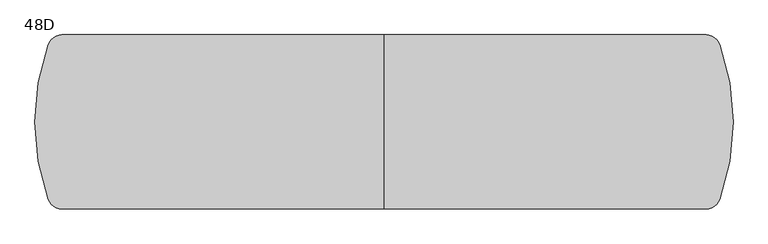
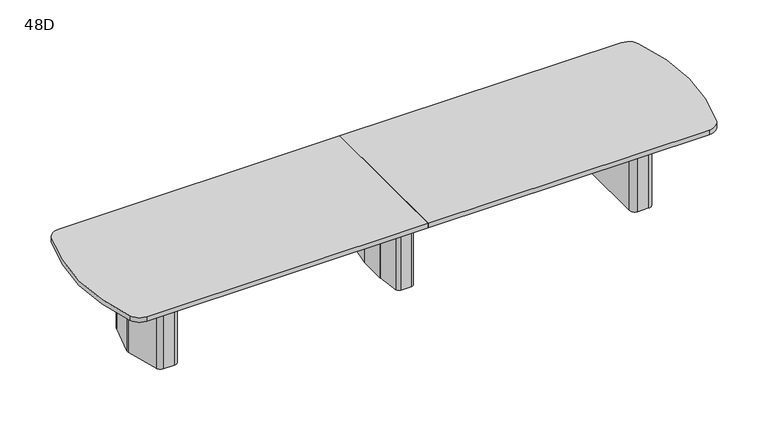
"""IFC4 building model written with IfcOpenShell, lengths in millimetres: furniture geometry, Coalesse_AM_Table_Conference_ETable2_SoftRadiused_16ft_ThreeBase : 48D."""

from ifc_helpers import new_model, si_unit, point, frame, frame_2d, origin, place, context, project, spatial, polyline, circle_curve, trimmed, segment, composite_curve, outline, extrude, source, transform, mapped, element, save
from ifc_brep_helpers import plane_surface, cylinder_surface, revolved_surface, advanced_brep


def furniture_48d_0d8360ce(model_context):
    return source(origin(), model_context, "Body", "SolidModel", [
        advanced_brep(
        [(35.71875, 206.375, 3.175), (10.31875, 231.775, 3.175), (-10.31875, 231.775, 3.175), (-35.71875, 206.375, 3.175), (-35.71875, -206.375, 3.175), (-10.31875, -231.775, 3.175), (10.31875, -231.775, 3.175), (35.71875, -206.375, 3.175), (-61.11875, 206.375, 0.0), (-10.31875, 257.175, 0.0), (10.31875, 257.175, 0.0), (61.11875, 206.375, 0.0), (61.11875, -206.375, 0.0), (10.31875, -257.175, 0.0), (-10.31875, -257.175, 0.0), (-61.11875, -206.375, 0.0), (-61.11875, -206.375, 3.175), (-61.11875, 206.375, 3.175), (-10.31875, -257.175, 3.175), (10.31875, -257.175, 3.175), (61.11875, -206.375, 3.175), (61.11875, 206.375, 3.175), (10.31875, 257.175, 3.175), (-10.31875, 257.175, 3.175), (-92.6215974, 106.2976848, 698.5), (-92.86875, 102.7629613, 698.5), (-92.86875, -102.7629613, 698.5), (-92.6215974, -106.2976848, 698.5), (-67.7988375, -282.9347235, 698.5), (-42.6459902, -304.8, 698.5), (42.6459902, -304.8, 698.5), (67.7988375, -282.9347235, 698.5), (92.6215974, -106.2976848, 698.5), (92.86875, -102.7629613, 698.5), (92.86875, 102.7629613, 698.5), (92.6215974, 106.2976848, 698.5), (67.7988375, 282.9347235, 698.5), (42.6459902, 304.8, 698.5), (-42.6459902, 304.8, 698.5), (-67.7988375, 282.9347235, 698.5), (10.31875, 231.775, 698.5), (35.71875, 206.375, 698.5), (35.71875, -206.375, 698.5), (10.31875, -231.775, 698.5), (-10.31875, -231.775, 698.5), (-35.71875, -206.375, 698.5), (-35.71875, 206.375, 698.5), (-10.31875, 231.775, 698.5), (-92.6215974, 106.2976848, 3.175), (-67.7988375, 282.9347235, 3.175), (-42.6459902, 304.8, 3.175), (42.6459902, 304.8, 3.175), (67.7988375, 282.9347235, 3.175), (92.6215974, 106.2976848, 3.175), (92.86875, 102.7629613, 3.175), (92.86875, -102.7629613, 3.175), (92.6215974, -106.2976848, 3.175), (67.7988375, -282.9347235, 3.175), (42.6459902, -304.8, 3.175), (-42.6459902, -304.8, 3.175), (-67.7988375, -282.9347235, 3.175), (-92.6215974, -106.2976848, 3.175), (-92.86875, -102.7629613, 3.175), (-92.86875, 102.7629613, 3.175)],
        [
            (0, 1, circle_curve(frame((10.31875, 206.375, 3.175), z_axis=(0.0, 0.0, 1.0), x_axis=(1.0, 0.0, 0.0)), 25.4)),
            (1, 2),
            (2, 3, circle_curve(frame((-10.31875, 206.375, 3.175), z_axis=(0.0, 0.0, 1.0), x_axis=(1.0, 0.0, 0.0)), 25.4)),
            (3, 4),
            (4, 5, circle_curve(frame((-10.31875, -206.375, 3.175), z_axis=(0.0, 0.0, 1.0), x_axis=(1.0, 0.0, 0.0)), 25.4)),
            (5, 6),
            (6, 7, circle_curve(frame((10.31875, -206.375, 3.175), z_axis=(0.0, 0.0, 1.0), x_axis=(1.0, 0.0, 0.0)), 25.4)),
            (7, 0),
            (8, 9, circle_curve(frame((-10.31875, 206.375, 0.0), z_axis=(0.0, 0.0, -1.0), x_axis=(1.0, 0.0, 0.0)), 50.8)),
            (9, 10),
            (10, 11, circle_curve(frame((10.31875, 206.375, 0.0), z_axis=(0.0, 0.0, -1.0), x_axis=(1.0, 0.0, 0.0)), 50.8)),
            (11, 12),
            (12, 13, circle_curve(frame((10.31875, -206.375, 0.0), z_axis=(0.0, 0.0, -1.0), x_axis=(1.0, 0.0, 0.0)), 50.8)),
            (13, 14),
            (14, 15, circle_curve(frame((-10.31875, -206.375, 0.0), z_axis=(0.0, 0.0, -1.0), x_axis=(1.0, 0.0, 0.0)), 50.8)),
            (15, 8),
            (15, 16),
            (16, 17),
            (17, 8),
            (14, 18),
            (18, 16, circle_curve(frame((-10.31875, -206.375, 3.175), z_axis=(0.0, 0.0, -1.0), x_axis=(1.0, 0.0, 0.0)), 50.8)),
            (13, 19),
            (19, 18),
            (12, 20),
            (20, 19, circle_curve(frame((10.31875, -206.375, 3.175), z_axis=(0.0, 0.0, -1.0), x_axis=(1.0, 0.0, 0.0)), 50.8)),
            (11, 21),
            (21, 20),
            (10, 22),
            (22, 21, circle_curve(frame((10.31875, 206.375, 3.175), z_axis=(0.0, 0.0, -1.0), x_axis=(1.0, 0.0, 0.0)), 50.8)),
            (9, 23),
            (23, 22),
            (17, 23, circle_curve(frame((-10.31875, 206.375, 3.175), z_axis=(0.0, 0.0, -1.0), x_axis=(1.0, 0.0, 0.0)), 50.8)),
            (24, 25, circle_curve(frame((-67.46875, 102.7629613, 698.5), z_axis=(0.0, 0.0, 1.0), x_axis=(1.0, 0.0, 0.0)), 25.4)),
            (25, 26),
            (26, 27, circle_curve(frame((-67.46875, -102.7629613, 698.5), z_axis=(0.0, 0.0, 1.0), x_axis=(1.0, 0.0, 0.0)), 25.4)),
            (27, 28),
            (28, 29, circle_curve(frame((-42.6459902, -279.4, 698.5), z_axis=(0.0, 0.0, 1.0), x_axis=(1.0, 0.0, 0.0)), 25.4)),
            (29, 30),
            (30, 31, circle_curve(frame((42.6459902, -279.4, 698.5), z_axis=(0.0, 0.0, 1.0), x_axis=(1.0, 0.0, 0.0)), 25.4)),
            (31, 32),
            (32, 33, circle_curve(frame((67.46875, -102.7629613, 698.5), z_axis=(0.0, 0.0, 1.0), x_axis=(1.0, 0.0, 0.0)), 25.4)),
            (33, 34),
            (34, 35, circle_curve(frame((67.46875, 102.7629613, 698.5), z_axis=(0.0, 0.0, 1.0), x_axis=(1.0, 0.0, 0.0)), 25.4)),
            (35, 36),
            (36, 37, circle_curve(frame((42.6459902, 279.4, 698.5), z_axis=(0.0, 0.0, 1.0), x_axis=(1.0, 0.0, 0.0)), 25.4)),
            (37, 38),
            (38, 39, circle_curve(frame((-42.6459902, 279.4, 698.5), z_axis=(0.0, 0.0, 1.0), x_axis=(1.0, 0.0, 0.0)), 25.4)),
            (39, 24),
            (40, 41, circle_curve(frame((10.31875, 206.375, 698.5), z_axis=(0.0, 0.0, -1.0), x_axis=(1.0, 0.0, 0.0)), 25.4)),
            (41, 42),
            (42, 43, circle_curve(frame((10.31875, -206.375, 698.5), z_axis=(0.0, 0.0, -1.0), x_axis=(1.0, 0.0, 0.0)), 25.4)),
            (43, 44),
            (44, 45, circle_curve(frame((-10.31875, -206.375, 698.5), z_axis=(0.0, 0.0, -1.0), x_axis=(1.0, 0.0, 0.0)), 25.4)),
            (45, 46),
            (46, 47, circle_curve(frame((-10.31875, 206.375, 698.5), z_axis=(0.0, 0.0, -1.0), x_axis=(1.0, 0.0, 0.0)), 25.4)),
            (47, 40),
            (48, 49),
            (49, 50, circle_curve(frame((-42.6459902, 279.4, 3.175), z_axis=(0.0, 0.0, -1.0), x_axis=(1.0, 0.0, 0.0)), 25.4)),
            (50, 51),
            (51, 52, circle_curve(frame((42.6459902, 279.4, 3.175), z_axis=(0.0, 0.0, -1.0), x_axis=(1.0, 0.0, 0.0)), 25.4)),
            (52, 53),
            (53, 54, circle_curve(frame((67.46875, 102.7629613, 3.175), z_axis=(0.0, 0.0, -1.0), x_axis=(1.0, 0.0, 0.0)), 25.4)),
            (54, 55),
            (55, 56, circle_curve(frame((67.46875, -102.7629613, 3.175), z_axis=(0.0, 0.0, -1.0), x_axis=(1.0, 0.0, 0.0)), 25.4)),
            (56, 57),
            (57, 58, circle_curve(frame((42.6459902, -279.4, 3.175), z_axis=(0.0, 0.0, -1.0), x_axis=(1.0, 0.0, 0.0)), 25.4)),
            (58, 59),
            (59, 60, circle_curve(frame((-42.6459902, -279.4, 3.175), z_axis=(0.0, 0.0, -1.0), x_axis=(1.0, 0.0, 0.0)), 25.4)),
            (60, 61),
            (61, 62, circle_curve(frame((-67.46875, -102.7629613, 3.175), z_axis=(0.0, 0.0, -1.0), x_axis=(1.0, 0.0, 0.0)), 25.4)),
            (62, 63),
            (63, 48, circle_curve(frame((-67.46875, 102.7629613, 3.175), z_axis=(0.0, 0.0, -1.0), x_axis=(1.0, 0.0, 0.0)), 25.4)),
            (24, 48),
            (63, 25),
            (62, 26),
            (61, 27),
            (60, 28),
            (59, 29),
            (58, 30),
            (57, 31),
            (56, 32),
            (55, 33),
            (54, 34),
            (53, 35),
            (52, 36),
            (51, 37),
            (50, 38),
            (49, 39),
            (40, 1),
            (0, 41),
            (7, 42),
            (6, 43),
            (5, 44),
            (4, 45),
            (3, 46),
            (2, 47),
        ],
        [
            plane_surface(frame((-61.11875, -206.375, 3.175), z_axis=(0.0, 0.0, 1.0), x_axis=(0.0, -1.0, 0.0))),
            plane_surface(frame((-61.11875, -206.375, 0.0), z_axis=(0.0, 0.0, -1.0), x_axis=(0.0, 1.0, 0.0))),
            plane_surface(frame((-61.11875, 206.375, 3.175), z_axis=(-1.0, 0.0, 0.0), x_axis=(0.0, 0.0, -1.0))),
            cylinder_surface(frame((-10.31875, -206.375, 0.0), z_axis=(0.0, 0.0, 1.0), x_axis=(1.0, 0.0, 0.0)), 50.8),
            plane_surface(frame((-10.31875, -257.175, 3.175), z_axis=(0.0, -1.0, 0.0), x_axis=(0.0, 0.0, -1.0))),
            cylinder_surface(frame((10.31875, -206.375, 0.0), z_axis=(0.0, 0.0, 1.0), x_axis=(1.0, 0.0, 0.0)), 50.8),
            plane_surface(frame((61.11875, -206.375, 3.175), z_axis=(1.0, 0.0, 0.0), x_axis=(0.0, 0.0, -1.0))),
            cylinder_surface(frame((10.31875, 206.375, 0.0), z_axis=(0.0, 0.0, 1.0), x_axis=(1.0, 0.0, 0.0)), 50.8),
            plane_surface(frame((10.31875, 257.175, 3.175), z_axis=(0.0, 1.0, 0.0), x_axis=(0.0, 0.0, -1.0))),
            cylinder_surface(frame((-10.31875, 206.375, 0.0), z_axis=(0.0, 0.0, 1.0), x_axis=(1.0, 0.0, 0.0)), 50.8),
            plane_surface(frame((-42.06875, 102.7629613, 698.5), z_axis=(0.0, 0.0, 1.0), x_axis=(0.0, 1.0, 0.0))),
            plane_surface(frame((-42.06875, 102.7629613, 3.175), z_axis=(0.0, 0.0, -1.0), x_axis=(0.0, -1.0, 0.0))),
            cylinder_surface(frame((-67.46875, 102.7629613, 3.175), z_axis=(0.0, 0.0, 1.0), x_axis=(1.0, 0.0, 0.0)), 25.4),
            plane_surface(frame((-92.86875, 102.7629613, 698.5), z_axis=(-1.0, 0.0, 0.0), x_axis=(0.0, 0.0, -1.0))),
            cylinder_surface(frame((-67.46875, -102.7629613, 3.175), z_axis=(0.0, 0.0, 1.0), x_axis=(1.0, 0.0, 0.0)), 25.4),
            plane_surface(frame((-92.6215974, -106.2976848, 698.5), z_axis=(-0.9902695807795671, -0.13916234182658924, 0.0), x_axis=(0.0, 0.0, -1.0))),
            cylinder_surface(frame((-42.6459902, -279.4, 3.175), z_axis=(0.0, 0.0, 1.0), x_axis=(1.0, 0.0, 0.0)), 25.4),
            plane_surface(frame((-42.6459902, -304.8, 698.5), z_axis=(0.0, -1.0, 0.0), x_axis=(0.0, 0.0, -1.0))),
            cylinder_surface(frame((42.6459902, -279.4, 3.175), z_axis=(0.0, 0.0, 1.0), x_axis=(1.0, 0.0, 0.0)), 25.4),
            plane_surface(frame((67.7988375, -282.9347235, 698.5), z_axis=(0.9902695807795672, -0.13916234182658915, 0.0), x_axis=(0.0, 0.0, -1.0))),
            cylinder_surface(frame((67.46875, -102.7629613, 3.175), z_axis=(0.0, 0.0, 1.0), x_axis=(1.0, 0.0, 0.0)), 25.4),
            plane_surface(frame((92.86875, -102.7629613, 698.5), z_axis=(1.0, 0.0, 0.0), x_axis=(0.0, 0.0, -1.0))),
            cylinder_surface(frame((67.46875, 102.7629613, 3.175), z_axis=(0.0, 0.0, 1.0), x_axis=(1.0, 0.0, 0.0)), 25.4),
            plane_surface(frame((92.6215974, 106.2976848, 698.5), z_axis=(0.9902695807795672, 0.1391623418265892, 0.0), x_axis=(0.0, 0.0, -1.0))),
            cylinder_surface(frame((42.6459902, 279.4, 3.175), z_axis=(0.0, 0.0, 1.0), x_axis=(1.0, 0.0, 0.0)), 25.4),
            plane_surface(frame((42.6459902, 304.8, 698.5), z_axis=(0.0, 1.0, 0.0), x_axis=(0.0, 0.0, -1.0))),
            cylinder_surface(frame((-42.6459902, 279.4, 3.175), z_axis=(0.0, 0.0, 1.0), x_axis=(1.0, 0.0, 0.0)), 25.4),
            plane_surface(frame((-67.7988375, 282.9347235, 698.5), z_axis=(-0.9902695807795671, 0.13916234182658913, 0.0), x_axis=(0.0, 0.0, -1.0))),
            revolved_surface(polyline([(35.71875, 206.375, 3.175), (35.71875, 206.375, 698.5)]), (10.31875, 206.375, 0.0), (0.0, 0.0, -1.0)),
            plane_surface(frame((35.71875, 206.375, 698.5), z_axis=(-1.0, 0.0, 0.0), x_axis=(0.0, 0.0, -1.0))),
            revolved_surface(polyline([(35.71875, -206.375, 3.175), (35.71875, -206.375, 698.5)]), (10.31875, -206.375, 0.0), (0.0, 0.0, -1.0)),
            plane_surface(frame((10.31875, -231.775, 698.5), z_axis=(0.0, 1.0, 0.0), x_axis=(0.0, 0.0, -1.0))),
            revolved_surface(polyline([(15.081249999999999, -206.375, 3.175), (15.081249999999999, -206.375, 698.5)]), (-10.31875, -206.375, 0.0), (0.0, 0.0, -1.0)),
            plane_surface(frame((-35.71875, -206.375, 698.5), z_axis=(1.0, 0.0, 0.0), x_axis=(0.0, 0.0, -1.0))),
            revolved_surface(polyline([(15.081249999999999, 206.375, 3.175), (15.081249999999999, 206.375, 698.5)]), (-10.31875, 206.375, 0.0), (0.0, 0.0, -1.0)),
            plane_surface(frame((-10.31875, 231.775, 698.5), z_axis=(0.0, -1.0, 0.0), x_axis=(0.0, 0.0, -1.0))),
        ],
        [
            (0, [[1, 2, 3, 4, 5, 6, 7, 8]]),
            (1, [[9, 10, 11, 12, 13, 14, 15, 16]]),
            (2, [[-16, 17, 18, 19]]),
            (3, [[-15, 20, 21, -17]]),
            (4, [[-14, 22, 23, -20]]),
            (5, [[-13, 24, 25, -22]]),
            (6, [[-12, 26, 27, -24]]),
            (7, [[-11, 28, 29, -26]]),
            (8, [[-10, 30, 31, -28]]),
            (9, [[-9, -19, 32, -30]]),
            (10, [[33, 34, 35, 36, 37, 38, 39, 40, 41, 42, 43, 44, 45, 46, 47, 48], [49, 50, 51, 52, 53, 54, 55, 56]]),
            (11, [[57, 58, 59, 60, 61, 62, 63, 64, 65, 66, 67, 68, 69, 70, 71, 72], [-18, -21, -23, -25, -27, -29, -31, -32]]),
            (12, [[-33, 73, -72, 74]]),
            (13, [[-34, -74, -71, 75]]),
            (14, [[-35, -75, -70, 76]]),
            (15, [[-36, -76, -69, 77]]),
            (16, [[-37, -77, -68, 78]]),
            (17, [[-38, -78, -67, 79]]),
            (18, [[-39, -79, -66, 80]]),
            (19, [[-40, -80, -65, 81]]),
            (20, [[-41, -81, -64, 82]]),
            (21, [[-42, -82, -63, 83]]),
            (22, [[-43, -83, -62, 84]]),
            (23, [[-44, -84, -61, 85]]),
            (24, [[-45, -85, -60, 86]]),
            (25, [[-46, -86, -59, 87]]),
            (26, [[-47, -87, -58, 88]]),
            (27, [[-48, -88, -57, -73]]),
            (28, [[-49, 89, -1, 90]]),
            (29, [[-50, -90, -8, 91]]),
            (30, [[-51, -91, -7, 92]]),
            (31, [[-52, -92, -6, 93]]),
            (32, [[-53, -93, -5, 94]]),
            (33, [[-54, -94, -4, 95]]),
            (34, [[-55, -95, -3, 96]]),
            (35, [[-56, -96, -2, -89]]),
        ],
    ),
        advanced_brep(
        [(1979.824548, 274.2093613, 698.5), (1939.9579246, 304.8, 698.5), (1851.025, 304.8, 698.5), (1809.75, 263.525, 698.5), (1809.75, -263.525, 698.5), (1851.025, -304.8, 698.5), (1939.9579246, -304.8, 698.5), (1979.824548, -274.2093613, 698.5), (2050.4503901, -10.6333708, 698.5), (2050.4503901, 10.6333708, 698.5), (1847.85, -206.375, 698.5), (1847.85, 206.375, 698.5), (1873.25, 231.775, 698.5), (1932.2608422, 231.775, 698.5), (1956.795338, 212.9490792, 698.5), (1995.4875, 68.54974, 698.5), (1995.4875, -68.54974, 698.5), (1956.795338, -212.9490792, 698.5), (1932.2608422, -231.775, 698.5), (1873.25, -231.775, 698.5), (1979.824548, 274.2093613, 3.175), (2050.4503901, 10.6333708, 3.175), (2050.4503901, -10.6333708, 3.175), (1979.824548, -274.2093613, 3.175), (1939.9579246, -304.8, 3.175), (1851.025, -304.8, 3.175), (1809.75, -263.525, 3.175), (1809.75, 263.525, 3.175), (1851.025, 304.8, 3.175), (1939.9579246, 304.8, 3.175), (1969.0625859, 216.2361187, 3.175), (1932.2608422, 244.475, 3.175), (1873.25, 244.475, 3.175), (1835.15, 206.375, 3.175), (1835.15, -206.375, 3.175), (1873.25, -244.475, 3.175), (1932.2608422, -244.475, 3.175), (1969.0625859, -216.2361187, 3.175), (2008.1875, -70.2217466, 3.175), (2008.1875, 70.2217466, 3.175), (1873.25, -231.775, 3.175), (1847.85, -206.375, 3.175), (1932.2608422, -231.775, 3.175), (1956.795338, -212.9490792, 3.175), (1995.4875, -68.54974, 3.175), (1995.4875, 68.54974, 3.175), (1956.795338, 212.9490792, 3.175), (1932.2608422, 231.775, 3.175), (1873.25, 231.775, 3.175), (1847.85, 206.375, 3.175), (1969.0625859, 216.2361187, 0.0), (2008.1875, 70.2217466, 0.0), (2008.1875, -70.2217466, 0.0), (1969.0625859, -216.2361187, 0.0), (1932.2608422, -244.475, 0.0), (1873.25, -244.475, 0.0), (1835.15, -206.375, 0.0), (1835.15, 206.375, 0.0), (1873.25, 244.475, 0.0), (1932.2608422, 244.475, 0.0)],
        [
            (0, 1, circle_curve(frame((1939.9579246, 263.5270004, 698.5), z_axis=(0.0, 0.0, 1.0), x_axis=(-1.0, 0.0, 0.0)), 41.2729996)),
            (1, 2),
            (2, 3, circle_curve(frame((1851.025, 263.525, 698.5), z_axis=(0.0, 0.0, 1.0), x_axis=(-1.0, 0.0, 0.0)), 41.275)),
            (3, 4),
            (4, 5, circle_curve(frame((1851.025, -263.525, 698.5), z_axis=(0.0, 0.0, 1.0), x_axis=(-1.0, 0.0, 0.0)), 41.275)),
            (5, 6),
            (6, 7, circle_curve(frame((1939.9579246, -263.5270004, 698.5), z_axis=(0.0, 0.0, 1.0), x_axis=(-1.0, 0.0, 0.0)), 41.2729996)),
            (7, 8),
            (8, 9, circle_curve(frame((2010.7665979, 0.0, 698.5), z_axis=(0.0, 0.0, 1.0), x_axis=(-1.0, 0.0, 0.0)), 41.0837187)),
            (9, 0),
            (10, 11),
            (11, 12, circle_curve(frame((1873.25, 206.375, 698.5), z_axis=(0.0, 0.0, -1.0), x_axis=(-1.0, 0.0, 0.0)), 25.4)),
            (12, 13),
            (13, 14, circle_curve(frame((1932.2608422, 206.375, 698.5), z_axis=(0.0, 0.0, -1.0), x_axis=(-1.0, 0.0, 0.0)), 25.4)),
            (14, 15),
            (15, 16),
            (16, 17),
            (17, 18, circle_curve(frame((1932.2608422, -206.375, 698.5), z_axis=(0.0, 0.0, -1.0), x_axis=(-1.0, 0.0, 0.0)), 25.4)),
            (18, 19),
            (19, 10, circle_curve(frame((1873.25, -206.375, 698.5), z_axis=(0.0, 0.0, -1.0), x_axis=(-1.0, 0.0, 0.0)), 25.4)),
            (20, 21),
            (21, 22, circle_curve(frame((2010.7665979, 0.0, 3.175), z_axis=(0.0, 0.0, -1.0), x_axis=(-1.0, 0.0, 0.0)), 41.0837187)),
            (22, 23),
            (23, 24, circle_curve(frame((1939.9579246, -263.5270004, 3.175), z_axis=(0.0, 0.0, -1.0), x_axis=(-1.0, 0.0, 0.0)), 41.2729996)),
            (24, 25),
            (25, 26, circle_curve(frame((1851.025, -263.525, 3.175), z_axis=(0.0, 0.0, -1.0), x_axis=(-1.0, 0.0, 0.0)), 41.275)),
            (26, 27),
            (27, 28, circle_curve(frame((1851.025, 263.525, 3.175), z_axis=(0.0, 0.0, -1.0), x_axis=(-1.0, 0.0, 0.0)), 41.275)),
            (28, 29),
            (29, 20, circle_curve(frame((1939.9579246, 263.5270004, 3.175), z_axis=(0.0, 0.0, -1.0), x_axis=(-1.0, 0.0, 0.0)), 41.2729996)),
            (30, 31, circle_curve(frame((1932.2608422, 206.375, 3.175), z_axis=(0.0, 0.0, 1.0), x_axis=(-1.0, 0.0, 0.0)), 38.1)),
            (31, 32),
            (32, 33, circle_curve(frame((1873.25, 206.375, 3.175), z_axis=(0.0, 0.0, 1.0), x_axis=(-1.0, 0.0, 0.0)), 38.1)),
            (33, 34),
            (34, 35, circle_curve(frame((1873.25, -206.375, 3.175), z_axis=(0.0, 0.0, 1.0), x_axis=(-1.0, 0.0, 0.0)), 38.1)),
            (35, 36),
            (36, 37, circle_curve(frame((1932.2608422, -206.375, 3.175), z_axis=(0.0, 0.0, 1.0), x_axis=(-1.0, 0.0, 0.0)), 38.1)),
            (37, 38),
            (38, 39),
            (39, 30),
            (9, 21),
            (20, 0),
            (8, 22),
            (7, 23),
            (6, 24),
            (5, 25),
            (4, 26),
            (3, 27),
            (2, 28),
            (1, 29),
            (19, 40),
            (40, 41, circle_curve(frame((1873.25, -206.375, 3.175), z_axis=(0.0, 0.0, -1.0), x_axis=(-1.0, 0.0, 0.0)), 25.4)),
            (41, 10),
            (18, 42),
            (42, 40),
            (17, 43),
            (43, 42, circle_curve(frame((1932.2608422, -206.375, 3.175), z_axis=(0.0, 0.0, -1.0), x_axis=(-1.0, 0.0, 0.0)), 25.4)),
            (16, 44),
            (44, 43),
            (15, 45),
            (45, 44),
            (14, 46),
            (46, 45),
            (13, 47),
            (47, 46, circle_curve(frame((1932.2608422, 206.375, 3.175), z_axis=(0.0, 0.0, -1.0), x_axis=(-1.0, 0.0, 0.0)), 25.4)),
            (12, 48),
            (48, 47),
            (11, 49),
            (49, 48, circle_curve(frame((1873.25, 206.375, 3.175), z_axis=(0.0, 0.0, -1.0), x_axis=(-1.0, 0.0, 0.0)), 25.4)),
            (41, 49),
            (50, 51),
            (51, 52),
            (52, 53),
            (53, 54, circle_curve(frame((1932.2608422, -206.375, 0.0), z_axis=(0.0, 0.0, -1.0), x_axis=(-1.0, 0.0, 0.0)), 38.1)),
            (54, 55),
            (55, 56, circle_curve(frame((1873.25, -206.375, 0.0), z_axis=(0.0, 0.0, -1.0), x_axis=(-1.0, 0.0, 0.0)), 38.1)),
            (56, 57),
            (57, 58, circle_curve(frame((1873.25, 206.375, 0.0), z_axis=(0.0, 0.0, -1.0), x_axis=(-1.0, 0.0, 0.0)), 38.1)),
            (58, 59),
            (59, 50, circle_curve(frame((1932.2608422, 206.375, 0.0), z_axis=(0.0, 0.0, -1.0), x_axis=(-1.0, 0.0, 0.0)), 38.1)),
            (50, 30),
            (39, 51),
            (38, 52),
            (37, 53),
            (36, 54),
            (35, 55),
            (34, 56),
            (33, 57),
            (32, 58),
            (31, 59),
        ],
        [
            plane_surface(frame((2050.4374275, 10.6817473, 698.5), z_axis=(0.0, 0.0, 1.0000000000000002), x_axis=(0.25882201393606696, -0.9659250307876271, 0.0))),
            plane_surface(frame((2050.4374275, 10.6817473, 3.175), z_axis=(0.0, 0.0, -1.0000000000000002), x_axis=(-0.25882201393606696, 0.9659250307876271, 0.0))),
            plane_surface(frame((1979.824548, 274.2093613, 698.5), z_axis=(0.9659250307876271, 0.25882201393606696, 0.0), x_axis=(0.0, 0.0, -1.0))),
            cylinder_surface(frame((2010.7665979, 0.0, 3.175), z_axis=(0.0, 0.0, 1.0), x_axis=(-1.0, 0.0, 0.0)), 41.0837187),
            plane_surface(frame((2050.4503901, -10.6333708, 698.5), z_axis=(0.9659250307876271, -0.2588220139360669, 0.0), x_axis=(0.0, 0.0, -1.0))),
            cylinder_surface(frame((1939.9579246, -263.5270004, 3.175), z_axis=(0.0, 0.0, 1.0), x_axis=(-1.0, 0.0, 0.0)), 41.2729996),
            plane_surface(frame((1939.9579246, -304.8, 698.5), z_axis=(0.0, -1.0, 0.0), x_axis=(0.0, 0.0, -1.0))),
            cylinder_surface(frame((1851.025, -263.525, 3.175), z_axis=(0.0, 0.0, 1.0), x_axis=(-1.0, 0.0, 0.0)), 41.275),
            plane_surface(frame((1809.75, -263.525, 698.5), z_axis=(-1.0, 0.0, 0.0), x_axis=(0.0, 0.0, -1.0))),
            cylinder_surface(frame((1851.025, 263.525, 3.175), z_axis=(0.0, 0.0, 1.0), x_axis=(-1.0, 0.0, 0.0)), 41.275),
            plane_surface(frame((1851.025, 304.8, 698.5), z_axis=(0.0, 1.0, 0.0), x_axis=(0.0, 0.0, -1.0))),
            cylinder_surface(frame((1939.9579246, 263.5270004, 3.175), z_axis=(0.0, 0.0, 1.0), x_axis=(-1.0, 0.0, 0.0)), 41.2729996),
            revolved_surface(polyline([(1847.85, -206.375, 3.175), (1847.85, -206.375, 698.5)]), (1873.25, -206.375, 0.0), (0.0, 0.0, -1.0)),
            plane_surface(frame((1873.25, -231.775, 698.5), z_axis=(0.0, 1.0, 0.0), x_axis=(0.0, 0.0, -1.0))),
            revolved_surface(polyline([(1906.8608422, -206.375, 3.175), (1906.8608422, -206.375, 698.5)]), (1932.2608422, -206.375, 0.0), (0.0, 0.0, -1.0)),
            plane_surface(frame((1956.795338, -212.9490792, 698.5), z_axis=(-0.9659250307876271, 0.2588220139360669, 0.0), x_axis=(0.0, 0.0, -1.0))),
            plane_surface(frame((1995.4875, -68.54974, 698.5), z_axis=(-1.0, 0.0, 0.0), x_axis=(0.0, 0.0, -1.0))),
            plane_surface(frame((1995.4875, 68.54974, 698.5), z_axis=(-0.9659250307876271, -0.25882201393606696, 0.0), x_axis=(0.0, 0.0, -1.0))),
            revolved_surface(polyline([(1906.8608422, 206.375, 3.175), (1906.8608422, 206.375, 698.5)]), (1932.2608422, 206.375, 0.0), (0.0, 0.0, -1.0)),
            plane_surface(frame((1932.2608422, 231.775, 698.5), z_axis=(0.0, -1.0, 0.0), x_axis=(0.0, 0.0, -1.0))),
            revolved_surface(polyline([(1847.85, 206.375, 3.175), (1847.85, 206.375, 698.5)]), (1873.25, 206.375, 0.0), (0.0, 0.0, -1.0)),
            plane_surface(frame((1847.85, 206.375, 698.5), z_axis=(1.0, 0.0, 0.0), x_axis=(0.0, 0.0, -1.0))),
            plane_surface(frame((2007.7547479, 71.8367796, 3.175), z_axis=(0.0, 0.0, 1.0), x_axis=(0.25882201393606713, -0.965925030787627, 0.0))),
            plane_surface(frame((2007.7547479, 71.8367796, 0.0), z_axis=(0.0, 0.0, -1.0), x_axis=(-0.25882201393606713, 0.965925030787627, 0.0))),
            plane_surface(frame((1969.0625859, 216.2361187, 3.175), z_axis=(0.965925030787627, 0.25882201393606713, 0.0), x_axis=(0.0, 0.0, -1.0))),
            plane_surface(frame((2008.1875, 70.2217466, 3.175), z_axis=(1.0, 0.0, 0.0), x_axis=(0.0, 0.0, -1.0))),
            plane_surface(frame((2008.1875, -70.2217466, 3.175), z_axis=(0.9659250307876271, -0.2588220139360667, 0.0), x_axis=(0.0, 0.0, -1.0))),
            cylinder_surface(frame((1932.2608422, -206.375, 0.0), z_axis=(0.0, 0.0, 1.0), x_axis=(-1.0, 0.0, 0.0)), 38.1),
            plane_surface(frame((1932.2608422, -244.475, 3.175), z_axis=(0.0, -1.0, 0.0), x_axis=(0.0, 0.0, -1.0))),
            cylinder_surface(frame((1873.25, -206.375, 0.0), z_axis=(0.0, 0.0, 1.0), x_axis=(-1.0, 0.0, 0.0)), 38.1),
            plane_surface(frame((1835.15, -206.375, 3.175), z_axis=(-1.0, 0.0, 0.0), x_axis=(0.0, 0.0, -1.0))),
            cylinder_surface(frame((1873.25, 206.375, 0.0), z_axis=(0.0, 0.0, 1.0), x_axis=(-1.0, 0.0, 0.0)), 38.1),
            plane_surface(frame((1873.25, 244.475, 3.175), z_axis=(0.0, 1.0, 0.0), x_axis=(0.0, 0.0, -1.0))),
            cylinder_surface(frame((1932.2608422, 206.375, 0.0), z_axis=(0.0, 0.0, 1.0), x_axis=(-1.0, 0.0, 0.0)), 38.1),
        ],
        [
            (0, [[1, 2, 3, 4, 5, 6, 7, 8, 9, 10], [11, 12, 13, 14, 15, 16, 17, 18, 19, 20]]),
            (1, [[21, 22, 23, 24, 25, 26, 27, 28, 29, 30], [31, 32, 33, 34, 35, 36, 37, 38, 39, 40]]),
            (2, [[41, -21, 42, -10]]),
            (3, [[43, -22, -41, -9]]),
            (4, [[44, -23, -43, -8]]),
            (5, [[45, -24, -44, -7]]),
            (6, [[46, -25, -45, -6]]),
            (7, [[47, -26, -46, -5]]),
            (8, [[48, -27, -47, -4]]),
            (9, [[49, -28, -48, -3]]),
            (10, [[50, -29, -49, -2]]),
            (11, [[-42, -30, -50, -1]]),
            (12, [[51, 52, 53, -20]]),
            (13, [[54, 55, -51, -19]]),
            (14, [[56, 57, -54, -18]]),
            (15, [[58, 59, -56, -17]]),
            (16, [[60, 61, -58, -16]]),
            (17, [[62, 63, -60, -15]]),
            (18, [[64, 65, -62, -14]]),
            (19, [[66, 67, -64, -13]]),
            (20, [[68, 69, -66, -12]]),
            (21, [[-53, 70, -68, -11]]),
            (22, [[-55, -57, -59, -61, -63, -65, -67, -69, -70, -52]]),
            (23, [[71, 72, 73, 74, 75, 76, 77, 78, 79, 80]]),
            (24, [[81, -40, 82, -71]]),
            (25, [[-82, -39, 83, -72]]),
            (26, [[-83, -38, 84, -73]]),
            (27, [[-84, -37, 85, -74]]),
            (28, [[-85, -36, 86, -75]]),
            (29, [[-86, -35, 87, -76]]),
            (30, [[-87, -34, 88, -77]]),
            (31, [[-88, -33, 89, -78]]),
            (32, [[-89, -32, 90, -79]]),
            (33, [[-90, -31, -81, -80]]),
        ],
    ),
        advanced_brep(
        [(-1979.824548, 274.2093613, 698.5), (-2050.4503901, 10.6333708, 698.5), (-2050.4503901, -10.6333708, 698.5), (-1979.824548, -274.2093613, 698.5), (-1939.9579246, -304.8, 698.5), (-1851.025, -304.8, 698.5), (-1809.75, -263.525, 698.5), (-1809.75, 263.525, 698.5), (-1851.025, 304.8, 698.5), (-1939.9579246, 304.8, 698.5), (-1847.85, -206.375, 698.5), (-1873.25, -231.775, 698.5), (-1932.2608422, -231.775, 698.5), (-1956.795338, -212.9490792, 698.5), (-1995.4875, -68.54974, 698.5), (-1995.4875, 68.54974, 698.5), (-1956.795338, 212.9490792, 698.5), (-1932.2608422, 231.775, 698.5), (-1873.25, 231.775, 698.5), (-1847.85, 206.375, 698.5), (-1979.824548, 274.2093613, 3.175), (-1939.9579246, 304.8, 3.175), (-1851.025, 304.8, 3.175), (-1809.75, 263.525, 3.175), (-1809.75, -263.525, 3.175), (-1851.025, -304.8, 3.175), (-1939.9579246, -304.8, 3.175), (-1979.824548, -274.2093613, 3.175), (-2050.4503901, -10.6333708, 3.175), (-2050.4503901, 10.6333708, 3.175), (-1969.0625859, 216.2361187, 3.175), (-2008.1875, 70.2217466, 3.175), (-2008.1875, -70.2217466, 3.175), (-1969.0625859, -216.2361187, 3.175), (-1932.2608422, -244.475, 3.175), (-1873.25, -244.475, 3.175), (-1835.15, -206.375, 3.175), (-1835.15, 206.375, 3.175), (-1873.25, 244.475, 3.175), (-1932.2608422, 244.475, 3.175), (-1847.85, -206.375, 3.175), (-1873.25, -231.775, 3.175), (-1932.2608422, -231.775, 3.175), (-1956.795338, -212.9490792, 3.175), (-1995.4875, -68.54974, 3.175), (-1995.4875, 68.54974, 3.175), (-1956.795338, 212.9490792, 3.175), (-1932.2608422, 231.775, 3.175), (-1873.25, 231.775, 3.175), (-1847.85, 206.375, 3.175), (-1969.0625859, 216.2361187, 0.0), (-1932.2608422, 244.475, 0.0), (-1873.25, 244.475, 0.0), (-1835.15, 206.375, 0.0), (-1835.15, -206.375, 0.0), (-1873.25, -244.475, 0.0), (-1932.2608422, -244.475, 0.0), (-1969.0625859, -216.2361187, 0.0), (-2008.1875, -70.2217466, 0.0), (-2008.1875, 70.2217466, 0.0)],
        [
            (0, 1),
            (1, 2, circle_curve(frame((-2010.7665979, 0.0, 698.5), z_axis=(0.0, 0.0, 1.0), x_axis=(1.0, 0.0, 0.0)), 41.0837187)),
            (2, 3),
            (3, 4, circle_curve(frame((-1939.9579246, -263.5270004, 698.5), z_axis=(0.0, 0.0, 1.0), x_axis=(1.0, 0.0, 0.0)), 41.2729996)),
            (4, 5),
            (5, 6, circle_curve(frame((-1851.025, -263.525, 698.5), z_axis=(0.0, 0.0, 1.0), x_axis=(1.0, 0.0, 0.0)), 41.275)),
            (6, 7),
            (7, 8, circle_curve(frame((-1851.025, 263.525, 698.5), z_axis=(0.0, 0.0, 1.0), x_axis=(1.0, 0.0, 0.0)), 41.275)),
            (8, 9),
            (9, 0, circle_curve(frame((-1939.9579246, 263.5270004, 698.5), z_axis=(0.0, 0.0, 1.0), x_axis=(1.0, 0.0, 0.0)), 41.2729996)),
            (10, 11, circle_curve(frame((-1873.25, -206.375, 698.5), z_axis=(0.0, 0.0, -1.0), x_axis=(1.0, 0.0, 0.0)), 25.4)),
            (11, 12),
            (12, 13, circle_curve(frame((-1932.2608422, -206.375, 698.5), z_axis=(0.0, 0.0, -1.0), x_axis=(1.0, 0.0, 0.0)), 25.4)),
            (13, 14),
            (14, 15),
            (15, 16),
            (16, 17, circle_curve(frame((-1932.2608422, 206.375, 698.5), z_axis=(0.0, 0.0, -1.0), x_axis=(1.0, 0.0, 0.0)), 25.4)),
            (17, 18),
            (18, 19, circle_curve(frame((-1873.25, 206.375, 698.5), z_axis=(0.0, 0.0, -1.0), x_axis=(1.0, 0.0, 0.0)), 25.4)),
            (19, 10),
            (20, 21, circle_curve(frame((-1939.9579246, 263.5270004, 3.175), z_axis=(0.0, 0.0, -1.0), x_axis=(1.0, 0.0, 0.0)), 41.2729996)),
            (21, 22),
            (22, 23, circle_curve(frame((-1851.025, 263.525, 3.175), z_axis=(0.0, 0.0, -1.0), x_axis=(1.0, 0.0, 0.0)), 41.275)),
            (23, 24),
            (24, 25, circle_curve(frame((-1851.025, -263.525, 3.175), z_axis=(0.0, 0.0, -1.0), x_axis=(1.0, 0.0, 0.0)), 41.275)),
            (25, 26),
            (26, 27, circle_curve(frame((-1939.9579246, -263.5270004, 3.175), z_axis=(0.0, 0.0, -1.0), x_axis=(1.0, 0.0, 0.0)), 41.2729996)),
            (27, 28),
            (28, 29, circle_curve(frame((-2010.7665979, 0.0, 3.175), z_axis=(0.0, 0.0, -1.0), x_axis=(1.0, 0.0, 0.0)), 41.0837187)),
            (29, 20),
            (30, 31),
            (31, 32),
            (32, 33),
            (33, 34, circle_curve(frame((-1932.2608422, -206.375, 3.175), z_axis=(0.0, 0.0, 1.0), x_axis=(1.0, 0.0, 0.0)), 38.1)),
            (34, 35),
            (35, 36, circle_curve(frame((-1873.25, -206.375, 3.175), z_axis=(0.0, 0.0, 1.0), x_axis=(1.0, 0.0, 0.0)), 38.1)),
            (36, 37),
            (37, 38, circle_curve(frame((-1873.25, 206.375, 3.175), z_axis=(0.0, 0.0, 1.0), x_axis=(1.0, 0.0, 0.0)), 38.1)),
            (38, 39),
            (39, 30, circle_curve(frame((-1932.2608422, 206.375, 3.175), z_axis=(0.0, 0.0, 1.0), x_axis=(1.0, 0.0, 0.0)), 38.1)),
            (0, 20),
            (29, 1),
            (28, 2),
            (27, 3),
            (26, 4),
            (25, 5),
            (24, 6),
            (23, 7),
            (22, 8),
            (21, 9),
            (10, 40),
            (40, 41, circle_curve(frame((-1873.25, -206.375, 3.175), z_axis=(0.0, 0.0, -1.0), x_axis=(1.0, 0.0, 0.0)), 25.4)),
            (41, 11),
            (41, 42),
            (42, 12),
            (42, 43, circle_curve(frame((-1932.2608422, -206.375, 3.175), z_axis=(0.0, 0.0, -1.0), x_axis=(1.0, 0.0, 0.0)), 25.4)),
            (43, 13),
            (43, 44),
            (44, 14),
            (44, 45),
            (45, 15),
            (45, 46),
            (46, 16),
            (46, 47, circle_curve(frame((-1932.2608422, 206.375, 3.175), z_axis=(0.0, 0.0, -1.0), x_axis=(1.0, 0.0, 0.0)), 25.4)),
            (47, 17),
            (47, 48),
            (48, 18),
            (48, 49, circle_curve(frame((-1873.25, 206.375, 3.175), z_axis=(0.0, 0.0, -1.0), x_axis=(1.0, 0.0, 0.0)), 25.4)),
            (49, 19),
            (49, 40),
            (50, 51, circle_curve(frame((-1932.2608422, 206.375, 0.0), z_axis=(0.0, 0.0, -1.0), x_axis=(1.0, 0.0, 0.0)), 38.1)),
            (51, 52),
            (52, 53, circle_curve(frame((-1873.25, 206.375, 0.0), z_axis=(0.0, 0.0, -1.0), x_axis=(1.0, 0.0, 0.0)), 38.1)),
            (53, 54),
            (54, 55, circle_curve(frame((-1873.25, -206.375, 0.0), z_axis=(0.0, 0.0, -1.0), x_axis=(1.0, 0.0, 0.0)), 38.1)),
            (55, 56),
            (56, 57, circle_curve(frame((-1932.2608422, -206.375, 0.0), z_axis=(0.0, 0.0, -1.0), x_axis=(1.0, 0.0, 0.0)), 38.1)),
            (57, 58),
            (58, 59),
            (59, 50),
            (59, 31),
            (30, 50),
            (58, 32),
            (57, 33),
            (56, 34),
            (55, 35),
            (54, 36),
            (53, 37),
            (52, 38),
            (51, 39),
        ],
        [
            plane_surface(frame((-2050.4374275, 10.6817473, 698.5), z_axis=(0.0, 0.0, 1.0000000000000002), x_axis=(-0.25882201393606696, -0.9659250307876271, 0.0))),
            plane_surface(frame((-2050.4374275, 10.6817473, 3.175), z_axis=(0.0, 0.0, -1.0000000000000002), x_axis=(0.25882201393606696, 0.9659250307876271, 0.0))),
            plane_surface(frame((-1979.824548, 274.2093613, 698.5), z_axis=(-0.9659250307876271, 0.25882201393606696, 0.0), x_axis=(0.0, 0.0, -1.0))),
            cylinder_surface(frame((-2010.7665979, 0.0, 3.175), z_axis=(0.0, 0.0, 1.0), x_axis=(1.0, 0.0, 0.0)), 41.0837187),
            plane_surface(frame((-2050.4503901, -10.6333708, 698.5), z_axis=(-0.9659250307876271, -0.2588220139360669, 0.0), x_axis=(0.0, 0.0, -1.0))),
            cylinder_surface(frame((-1939.9579246, -263.5270004, 3.175), z_axis=(0.0, 0.0, 1.0), x_axis=(1.0, 0.0, 0.0)), 41.2729996),
            plane_surface(frame((-1939.9579246, -304.8, 698.5), z_axis=(0.0, -1.0, 0.0), x_axis=(0.0, 0.0, -1.0))),
            cylinder_surface(frame((-1851.025, -263.525, 3.175), z_axis=(0.0, 0.0, 1.0), x_axis=(1.0, 0.0, 0.0)), 41.275),
            plane_surface(frame((-1809.75, -263.525, 698.5), z_axis=(1.0, 0.0, 0.0), x_axis=(0.0, 0.0, -1.0))),
            cylinder_surface(frame((-1851.025, 263.525, 3.175), z_axis=(0.0, 0.0, 1.0), x_axis=(1.0, 0.0, 0.0)), 41.275),
            plane_surface(frame((-1851.025, 304.8, 698.5), z_axis=(0.0, 1.0, 0.0), x_axis=(0.0, 0.0, -1.0))),
            cylinder_surface(frame((-1939.9579246, 263.5270004, 3.175), z_axis=(0.0, 0.0, 1.0), x_axis=(1.0, 0.0, 0.0)), 41.2729996),
            revolved_surface(polyline([(-1847.85, -206.375, 3.175), (-1847.85, -206.375, 698.5)]), (-1873.25, -206.375, 0.0), (0.0, 0.0, -1.0)),
            plane_surface(frame((-1873.25, -231.775, 698.5), z_axis=(0.0, 1.0, 0.0), x_axis=(0.0, 0.0, -1.0))),
            revolved_surface(polyline([(-1906.8608422, -206.375, 3.175), (-1906.8608422, -206.375, 698.5)]), (-1932.2608422, -206.375, 0.0), (0.0, 0.0, -1.0)),
            plane_surface(frame((-1956.795338, -212.9490792, 698.5), z_axis=(0.9659250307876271, 0.2588220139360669, 0.0), x_axis=(0.0, 0.0, -1.0))),
            plane_surface(frame((-1995.4875, -68.54974, 698.5), z_axis=(1.0, 0.0, 0.0), x_axis=(0.0, 0.0, -1.0))),
            plane_surface(frame((-1995.4875, 68.54974, 698.5), z_axis=(0.9659250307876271, -0.25882201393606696, 0.0), x_axis=(0.0, 0.0, -1.0))),
            revolved_surface(polyline([(-1906.8608422, 206.375, 3.175), (-1906.8608422, 206.375, 698.5)]), (-1932.2608422, 206.375, 0.0), (0.0, 0.0, -1.0)),
            plane_surface(frame((-1932.2608422, 231.775, 698.5), z_axis=(0.0, -1.0, 0.0), x_axis=(0.0, 0.0, -1.0))),
            revolved_surface(polyline([(-1847.85, 206.375, 3.175), (-1847.85, 206.375, 698.5)]), (-1873.25, 206.375, 0.0), (0.0, 0.0, -1.0)),
            plane_surface(frame((-1847.85, 206.375, 698.5), z_axis=(-1.0, 0.0, 0.0), x_axis=(0.0, 0.0, -1.0))),
            plane_surface(frame((-2007.7547479, 71.8367796, 3.175), z_axis=(0.0, 0.0, 1.0), x_axis=(-0.25882201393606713, -0.965925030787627, 0.0))),
            plane_surface(frame((-2007.7547479, 71.8367796, 0.0), z_axis=(0.0, 0.0, -1.0), x_axis=(0.25882201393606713, 0.965925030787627, 0.0))),
            plane_surface(frame((-1969.0625859, 216.2361187, 3.175), z_axis=(-0.965925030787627, 0.25882201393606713, 0.0), x_axis=(0.0, 0.0, -1.0))),
            plane_surface(frame((-2008.1875, 70.2217466, 3.175), z_axis=(-1.0, 0.0, 0.0), x_axis=(0.0, 0.0, -1.0))),
            plane_surface(frame((-2008.1875, -70.2217466, 3.175), z_axis=(-0.9659250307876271, -0.2588220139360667, 0.0), x_axis=(0.0, 0.0, -1.0))),
            cylinder_surface(frame((-1932.2608422, -206.375, 0.0), z_axis=(0.0, 0.0, 1.0), x_axis=(1.0, 0.0, 0.0)), 38.1),
            plane_surface(frame((-1932.2608422, -244.475, 3.175), z_axis=(0.0, -1.0, 0.0), x_axis=(0.0, 0.0, -1.0))),
            cylinder_surface(frame((-1873.25, -206.375, 0.0), z_axis=(0.0, 0.0, 1.0), x_axis=(1.0, 0.0, 0.0)), 38.1),
            plane_surface(frame((-1835.15, -206.375, 3.175), z_axis=(1.0, 0.0, 0.0), x_axis=(0.0, 0.0, -1.0))),
            cylinder_surface(frame((-1873.25, 206.375, 0.0), z_axis=(0.0, 0.0, 1.0), x_axis=(1.0, 0.0, 0.0)), 38.1),
            plane_surface(frame((-1873.25, 244.475, 3.175), z_axis=(0.0, 1.0, 0.0), x_axis=(0.0, 0.0, -1.0))),
            cylinder_surface(frame((-1932.2608422, 206.375, 0.0), z_axis=(0.0, 0.0, 1.0), x_axis=(1.0, 0.0, 0.0)), 38.1),
        ],
        [
            (0, [[1, 2, 3, 4, 5, 6, 7, 8, 9, 10], [11, 12, 13, 14, 15, 16, 17, 18, 19, 20]]),
            (1, [[21, 22, 23, 24, 25, 26, 27, 28, 29, 30], [31, 32, 33, 34, 35, 36, 37, 38, 39, 40]]),
            (2, [[-1, 41, -30, 42]]),
            (3, [[-2, -42, -29, 43]]),
            (4, [[-3, -43, -28, 44]]),
            (5, [[-4, -44, -27, 45]]),
            (6, [[-5, -45, -26, 46]]),
            (7, [[-6, -46, -25, 47]]),
            (8, [[-7, -47, -24, 48]]),
            (9, [[-8, -48, -23, 49]]),
            (10, [[-9, -49, -22, 50]]),
            (11, [[-10, -50, -21, -41]]),
            (12, [[-11, 51, 52, 53]]),
            (13, [[-12, -53, 54, 55]]),
            (14, [[-13, -55, 56, 57]]),
            (15, [[-14, -57, 58, 59]]),
            (16, [[-15, -59, 60, 61]]),
            (17, [[-16, -61, 62, 63]]),
            (18, [[-17, -63, 64, 65]]),
            (19, [[-18, -65, 66, 67]]),
            (20, [[-19, -67, 68, 69]]),
            (21, [[-20, -69, 70, -51]]),
            (22, [[-52, -70, -68, -66, -64, -62, -60, -58, -56, -54]]),
            (23, [[71, 72, 73, 74, 75, 76, 77, 78, 79, 80]]),
            (24, [[-80, 81, -31, 82]]),
            (25, [[-79, 83, -32, -81]]),
            (26, [[-78, 84, -33, -83]]),
            (27, [[-77, 85, -34, -84]]),
            (28, [[-76, 86, -35, -85]]),
            (29, [[-75, 87, -36, -86]]),
            (30, [[-74, 88, -37, -87]]),
            (31, [[-73, 89, -38, -88]]),
            (32, [[-72, 90, -39, -89]]),
            (33, [[-71, -82, -40, -90]]),
        ],
    ),
        extrude(outline(composite_curve([segment(trimmed(circle_curve(frame_2d((2249.2540251, 508.0)), 101.6), [point((2249.2540251, 609.6))], [point((2344.9932067, 542.0083682))], False, "CARTESIAN"), True, "CONTINUOUS"), segment(trimmed(circle_curve(frame_2d((819.15, 0.0)), 1619.25), [point((2344.9932067, 542.0083682))], [point((2344.9932067, -542.0083682))], False, "CARTESIAN"), True, "CONTINUOUS"), segment(trimmed(circle_curve(frame_2d((2249.2540251, -508.0)), 101.6), [point((2344.9932067, -542.0083682))], [point((2249.2540251, -609.6))], False, "CARTESIAN"), True, "CONTINUOUS"), segment(polyline([(2249.2540251, -609.6), (0.0, -609.6), (0.0, 609.6), (2249.2540251, 609.6)]), True, "CONTINUOUS")], self_intersect=False)), frame((0.0, 0.0, 698.5), z_axis=(0.0, 0.0, 1.0), x_axis=(1.0, 0.0, 0.0)), (0.0, 0.0, 1.0), 38.1),
        extrude(outline(composite_curve([segment(polyline([(0.0, 609.6), (0.0, -609.6), (-2249.2540251, -609.6)]), True, "CONTINUOUS"), segment(trimmed(circle_curve(frame_2d((-2249.2540251, -508.0)), 101.6), [point((-2249.2540251, -609.6))], [point((-2344.9932067, -542.0083682))], False, "CARTESIAN"), True, "CONTINUOUS"), segment(trimmed(circle_curve(frame_2d((-819.15, 0.0)), 1619.25), [point((-2344.9932067, -542.0083682))], [point((-2344.9932067, 542.0083682))], False, "CARTESIAN"), True, "CONTINUOUS"), segment(trimmed(circle_curve(frame_2d((-2249.2540251, 508.0)), 101.6), [point((-2344.9932067, 542.0083682))], [point((-2249.2540251, 609.6))], False, "CARTESIAN"), True, "CONTINUOUS"), segment(polyline([(-2249.2540251, 609.6), (0.0, 609.6)]), True, "CONTINUOUS")], self_intersect=False)), frame((0.0, 0.0, 698.5), z_axis=(0.0, 0.0, 1.0), x_axis=(1.0, 0.0, 0.0)), (0.0, 0.0, 1.0), 38.1),
        extrude(outline(polyline([(96.8375, 698.5), (103.1875, 698.5), (103.1875, 476.25), (-103.1875, 476.25), (-103.1875, 698.5), (-96.8375, 698.5), (-96.8375, 482.6), (96.8375, 482.6), (96.8375, 698.5)])), frame((-1809.75, 0.0, 0.0), z_axis=(1.0, 0.0, 0.0), x_axis=(0.0, 1.0, 0.0)), (0.0, 0.0, 1.0), 3619.5),
    ])


if __name__ == "__main__":
    model = new_model("IFC4")
    model_context = context("Model", 3, world=origin())
    ifc_project = project(units=[si_unit("LENGTHUNIT", "METRE", prefix="MILLI")], contexts=[model_context])
    site = spatial("IfcSite", under=ifc_project)
    building = spatial("IfcBuilding", under=site)
    placement = place(None, origin())
    furniture_48d_shape = furniture_48d_0d8360ce(model_context)
    element("IfcFurniture", 1, ObjectType="Coalesse_AM_Table_Conference_ETable2_SoftRadiused_16ft_ThreeBase : 48D", at=placement, inside=building, context=model_context, shape_type="MappedRepresentation", body=[
        mapped(furniture_48d_shape, transform((0.0, 0.0, 0.0), x_axis=(1.0, 0.0, 0.0), y_axis=(0.0, 1.0, 0.0), z_axis=(0.0, 0.0, 1.0))),
    ])
    save(model, "model.ifc")
